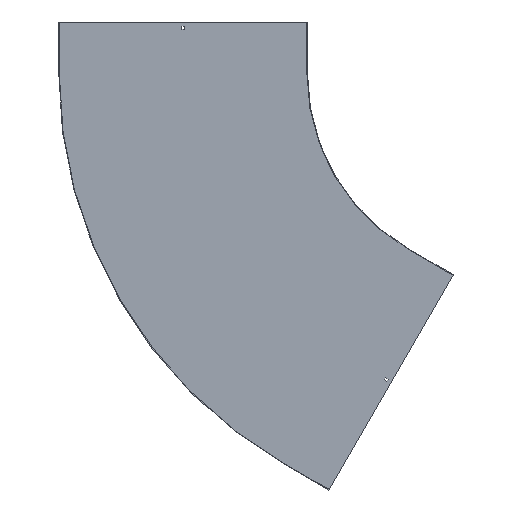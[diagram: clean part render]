
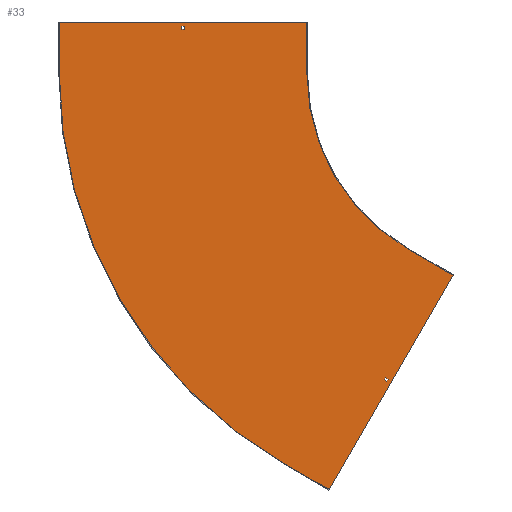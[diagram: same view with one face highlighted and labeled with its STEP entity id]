
A CAD part, front view. The second image highlights one B-rep face of the part: STEP entity #33.
In plain terms, the highlighted planar face has unit normal (0, -1, 0).
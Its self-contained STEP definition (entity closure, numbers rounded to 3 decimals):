
#12 = VECTOR ( 'NONE', #731, 1000. ) ;
#14 = VECTOR ( 'NONE', #636, 1000. ) ;
#32 = CARTESIAN_POINT ( 'NONE',  ( -353.863, -1.5, -888.91 ) ) ;
#33 = ADVANCED_FACE ( 'NONE', ( #188, #61, #732 ), #514, .T. ) ;
#45 = CARTESIAN_POINT ( 'NONE',  ( -590., -1.5, 150. ) ) ;
#51 = CARTESIAN_POINT ( 'NONE',  ( 0., -1.5, 0. ) ) ;
#61 = FACE_OUTER_BOUND ( 'NONE', #830, .T. ) ;
#76 = CARTESIAN_POINT ( 'NONE',  ( -1310., -1.5, 150. ) ) ;
#77 = LINE ( 'NONE', #801, #575 ) ;
#81 = VERTEX_POINT ( 'NONE', #796 ) ;
#85 = DIRECTION ( 'NONE',  ( 1., 0., 0. ) ) ;
#87 = DIRECTION ( 'NONE',  ( 0., 1., 0. ) ) ;
#111 = VECTOR ( 'NONE', #314, 1000. ) ;
#112 = VECTOR ( 'NONE', #504, 1000. ) ;
#115 = CARTESIAN_POINT ( 'NONE',  ( 0., -1.5, 0. ) ) ;
#130 = VERTEX_POINT ( 'NONE', #816 ) ;
#137 = EDGE_CURVE ( 'NONE', #221, #217, #623, .T. ) ;
#142 = CARTESIAN_POINT ( 'NONE',  ( -295., -1.5, -510.955 ) ) ;
#143 = DIRECTION ( 'NONE',  ( 0., -1., 0. ) ) ;
#149 = CARTESIAN_POINT ( 'NONE',  ( 0., -1.5, 138. ) ) ;
#150 = EDGE_CURVE ( 'NONE', #81, #580, #317, .T. ) ;
#152 = DIRECTION ( 'NONE',  ( -0.866, 0., 0.5 ) ) ;
#155 = CARTESIAN_POINT ( 'NONE',  ( -946.75, -1.5, 129. ) ) ;
#158 = ORIENTED_EDGE ( 'NONE', *, *, #741, .T. ) ;
#188 = FACE_BOUND ( 'NONE', #806, .T. ) ;
#199 = LINE ( 'NONE', #845, #12 ) ;
#203 = CARTESIAN_POINT ( 'NONE',  ( -1310., -1.5, 0. ) ) ;
#213 = LINE ( 'NONE', #149, #457 ) ;
#214 = EDGE_CURVE ( 'NONE', #562, #130, #747, .T. ) ;
#217 = VERTEX_POINT ( 'NONE', #476 ) ;
#219 = DIRECTION ( 'NONE',  ( 0., 0., -1. ) ) ;
#221 = VERTEX_POINT ( 'NONE', #76 ) ;
#226 = CARTESIAN_POINT ( 'NONE',  ( -357.113, -1.5, -894.539 ) ) ;
#236 = ORIENTED_EDGE ( 'NONE', *, *, #379, .F. ) ;
#240 = CARTESIAN_POINT ( 'NONE',  ( 111.717, -1.5, -64.5 ) ) ;
#255 = LINE ( 'NONE', #391, #443 ) ;
#261 = VECTOR ( 'NONE', #799, 1000. ) ;
#265 = VERTEX_POINT ( 'NONE', #226 ) ;
#278 = VERTEX_POINT ( 'NONE', #362 ) ;
#280 = ORIENTED_EDGE ( 'NONE', *, *, #430, .F. ) ;
#282 = DIRECTION ( 'NONE',  ( 0., 0., -1. ) ) ;
#288 = CARTESIAN_POINT ( 'NONE',  ( 0., -1.5, 129. ) ) ;
#312 = ORIENTED_EDGE ( 'NONE', *, *, #365, .T. ) ;
#314 = DIRECTION ( 'NONE',  ( 0., 0., -1. ) ) ;
#317 = CIRCLE ( 'NONE', #468, 1310. ) ;
#324 = EDGE_CURVE ( 'NONE', #582, #740, #709, .T. ) ;
#330 = VECTOR ( 'NONE', #632, 1000. ) ;
#342 = DIRECTION ( 'NONE',  ( 1., 0., 0. ) ) ;
#343 = ORIENTED_EDGE ( 'NONE', *, *, #699, .F. ) ;
#350 = ORIENTED_EDGE ( 'NONE', *, *, #858, .F. ) ;
#352 = VERTEX_POINT ( 'NONE', #32 ) ;
#362 = CARTESIAN_POINT ( 'NONE',  ( -953.25, -1.5, 129. ) ) ;
#364 = ORIENTED_EDGE ( 'NONE', *, *, #324, .F. ) ;
#365 = EDGE_CURVE ( 'NONE', #515, #278, #648, .T. ) ;
#373 = EDGE_LOOP ( 'NONE', ( #465, #484, #312, #158 ) ) ;
#376 = EDGE_CURVE ( 'NONE', #679, #515, #426, .T. ) ;
#379 = EDGE_CURVE ( 'NONE', #740, #265, #255, .T. ) ;
#391 = CARTESIAN_POINT ( 'NONE',  ( -476.625, -1.5, -825.539 ) ) ;
#408 = VERTEX_POINT ( 'NONE', #521 ) ;
#409 = CARTESIAN_POINT ( 'NONE',  ( -590., -1.5, 0. ) ) ;
#418 = CIRCLE ( 'NONE', #431, 590. ) ;
#426 = LINE ( 'NONE', #698, #656 ) ;
#429 = DIRECTION ( 'NONE',  ( 0., 0., -1. ) ) ;
#430 = EDGE_CURVE ( 'NONE', #265, #352, #456, .T. ) ;
#431 = AXIS2_PLACEMENT_3D ( 'NONE', #51, #143, #282 ) ;
#443 = VECTOR ( 'NONE', #516, 1000. ) ;
#453 = EDGE_CURVE ( 'NONE', #580, #221, #199, .T. ) ;
#456 = LINE ( 'NONE', #523, #862 ) ;
#457 = VECTOR ( 'NONE', #85, 1000. ) ;
#461 = ORIENTED_EDGE ( 'NONE', *, *, #494, .F. ) ;
#465 = ORIENTED_EDGE ( 'NONE', *, *, #589, .T. ) ;
#468 = AXIS2_PLACEMENT_3D ( 'NONE', #678, #87, #219 ) ;
#476 = CARTESIAN_POINT ( 'NONE',  ( -590., -1.5, 150. ) ) ;
#484 = ORIENTED_EDGE ( 'NONE', *, *, #376, .T. ) ;
#494 = EDGE_CURVE ( 'NONE', #217, #593, #716, .T. ) ;
#499 = LINE ( 'NONE', #829, #112 ) ;
#504 = DIRECTION ( 'NONE',  ( -0.866, 0., 0.5 ) ) ;
#514 = PLANE ( 'NONE',  #850 ) ;
#515 = VERTEX_POINT ( 'NONE', #155 ) ;
#516 = DIRECTION ( 'NONE',  ( 0.866, 0., -0.5 ) ) ;
#521 = CARTESIAN_POINT ( 'NONE',  ( -525.096, -1.5, -1209.493 ) ) ;
#523 = CARTESIAN_POINT ( 'NONE',  ( 119.512, -1.5, -69. ) ) ;
#527 = DIRECTION ( 'NONE',  ( 0., 0., 1. ) ) ;
#533 = VERTEX_POINT ( 'NONE', #666 ) ;
#536 = CARTESIAN_POINT ( 'NONE',  ( -295., -1.5, -510.955 ) ) ;
#539 = ORIENTED_EDGE ( 'NONE', *, *, #137, .F. ) ;
#562 = VERTEX_POINT ( 'NONE', #142 ) ;
#575 = VECTOR ( 'NONE', #527, 1000. ) ;
#580 = VERTEX_POINT ( 'NONE', #203 ) ;
#582 = VERTEX_POINT ( 'NONE', #606 ) ;
#589 = EDGE_CURVE ( 'NONE', #533, #679, #213, .T. ) ;
#591 = ORIENTED_EDGE ( 'NONE', *, *, #214, .F. ) ;
#593 = VERTEX_POINT ( 'NONE', #409 ) ;
#606 = CARTESIAN_POINT ( 'NONE',  ( -361.658, -1.5, -884.41 ) ) ;
#623 = LINE ( 'NONE', #689, #647 ) ;
#632 = DIRECTION ( 'NONE',  ( -0.5, 0., -0.866 ) ) ;
#636 = DIRECTION ( 'NONE',  ( -0.5, 0., -0.866 ) ) ;
#647 = VECTOR ( 'NONE', #342, 1000. ) ;
#648 = LINE ( 'NONE', #288, #670 ) ;
#654 = DIRECTION ( 'NONE',  ( 0.5, 0., 0.866 ) ) ;
#656 = VECTOR ( 'NONE', #429, 1000. ) ;
#658 = VECTOR ( 'NONE', #152, 1000. ) ;
#661 = ORIENTED_EDGE ( 'NONE', *, *, #667, .F. ) ;
#666 = CARTESIAN_POINT ( 'NONE',  ( -953.25, -1.5, 138. ) ) ;
#667 = EDGE_CURVE ( 'NONE', #130, #408, #774, .T. ) ;
#669 = CARTESIAN_POINT ( 'NONE',  ( -364.908, -1.5, -890.039 ) ) ;
#670 = VECTOR ( 'NONE', #824, 1000. ) ;
#675 = LINE ( 'NONE', #807, #658 ) ;
#678 = CARTESIAN_POINT ( 'NONE',  ( 0., -1.5, 0. ) ) ;
#679 = VERTEX_POINT ( 'NONE', #835 ) ;
#689 = CARTESIAN_POINT ( 'NONE',  ( -1311.5, -1.5, 150. ) ) ;
#692 = ORIENTED_EDGE ( 'NONE', *, *, #150, .F. ) ;
#693 = CARTESIAN_POINT ( 'NONE',  ( -164.346, -1.5, -584.656 ) ) ;
#698 = CARTESIAN_POINT ( 'NONE',  ( -946.75, -1.5, 0. ) ) ;
#699 = EDGE_CURVE ( 'NONE', #593, #562, #418, .T. ) ;
#709 = LINE ( 'NONE', #240, #330 ) ;
#716 = LINE ( 'NONE', #45, #111 ) ;
#729 = ORIENTED_EDGE ( 'NONE', *, *, #769, .F. ) ;
#731 = DIRECTION ( 'NONE',  ( 0., 0., 1. ) ) ;
#732 = FACE_BOUND ( 'NONE', #373, .T. ) ;
#740 = VERTEX_POINT ( 'NONE', #669 ) ;
#741 = EDGE_CURVE ( 'NONE', #278, #533, #77, .T. ) ;
#747 = LINE ( 'NONE', #536, #261 ) ;
#769 = EDGE_CURVE ( 'NONE', #408, #81, #675, .T. ) ;
#774 = LINE ( 'NONE', #693, #14 ) ;
#784 = DIRECTION ( 'NONE',  ( 0., 0., -1. ) ) ;
#787 = DIRECTION ( 'NONE',  ( 0., -1., 0. ) ) ;
#796 = CARTESIAN_POINT ( 'NONE',  ( -655., -1.5, -1134.493 ) ) ;
#799 = DIRECTION ( 'NONE',  ( 0.866, 0., -0.5 ) ) ;
#800 = ORIENTED_EDGE ( 'NONE', *, *, #453, .F. ) ;
#801 = CARTESIAN_POINT ( 'NONE',  ( -953.25, -1.5, 0. ) ) ;
#806 = EDGE_LOOP ( 'NONE', ( #350, #280, #236, #364 ) ) ;
#807 = CARTESIAN_POINT ( 'NONE',  ( -525.096, -1.5, -1209.493 ) ) ;
#816 = CARTESIAN_POINT ( 'NONE',  ( -165.096, -1.5, -585.955 ) ) ;
#824 = DIRECTION ( 'NONE',  ( -1., 0., 0. ) ) ;
#829 = CARTESIAN_POINT ( 'NONE',  ( -473.375, -1.5, -819.91 ) ) ;
#830 = EDGE_LOOP ( 'NONE', ( #539, #800, #692, #729, #661, #591, #343, #461 ) ) ;
#835 = CARTESIAN_POINT ( 'NONE',  ( -946.75, -1.5, 138. ) ) ;
#845 = CARTESIAN_POINT ( 'NONE',  ( -1310., -1.5, 0. ) ) ;
#850 = AXIS2_PLACEMENT_3D ( 'NONE', #115, #787, #784 ) ;
#858 = EDGE_CURVE ( 'NONE', #352, #582, #499, .T. ) ;
#862 = VECTOR ( 'NONE', #654, 1000. ) ;
